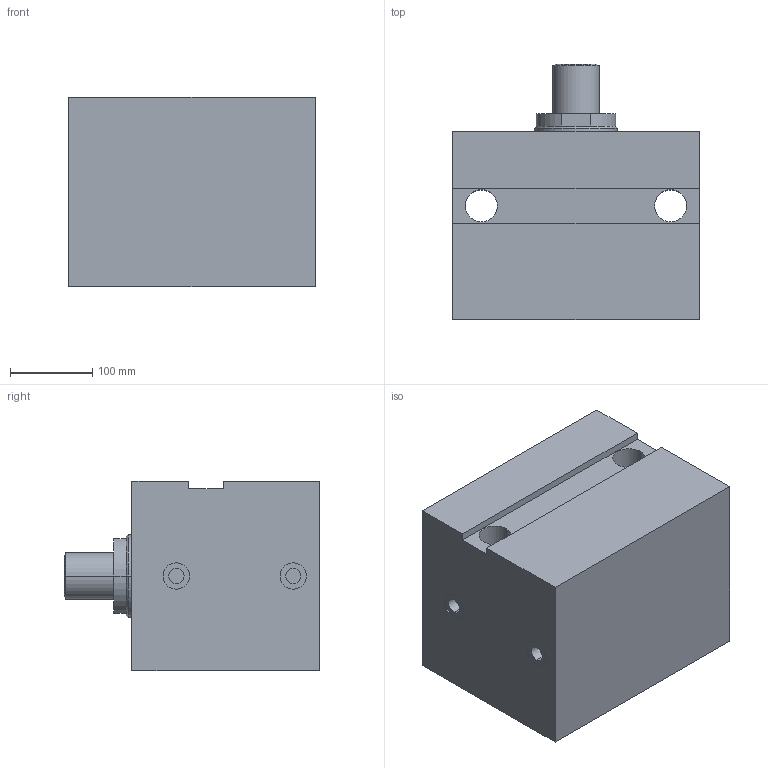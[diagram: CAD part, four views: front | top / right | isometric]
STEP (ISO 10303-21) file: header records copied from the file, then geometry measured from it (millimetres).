
FILE_DESCRIPTION (( 'STEP AP203' ), '1' );
FILE_NAME ('GERMA_Blockzylinder_602-160-100-A.STEP', '2016-04-06T16:14:29', ( '' ), ( '' ), 'SwSTEP 2.0', 'SolidWorks 2015', '' );
FILE_SCHEMA (( 'CONFIG_CONTROL_DESIGN' ));
Length unit declared in the file: millimetre
Products named in the file (3): GH-600-160_GH-602-160-100; Kolben 60x-160_Kolben DU.160-Hub100-AG; GERMA_Blockzylinder_602-160-100-A
Assembly tree (2 placements, depth 2):
  GERMA_Blockzylinder_602-160-100-A
    GH-600-160_GH-602-160-100
    Kolben 60x-160_Kolben DU.160-Hub100-AG
Bounding box: 300 x 310 x 230 mm (x, y, z)
Volume: 14161123 mm3; surface area: 675199.2 mm2
Topology: 2 solids, 2 shells, 69 faces, 150 edges, 93 vertices
Faces by surface type: cylinder 31, plane 26, cone 12
Entity records: 2182 total; most frequent: DIRECTION 367, CARTESIAN_POINT 313, ORIENTED_EDGE 292, AXIS2_PLACEMENT_3D 147, EDGE_CURVE 146, VERTEX_POINT 93, EDGE_LOOP 85, LINE 73
